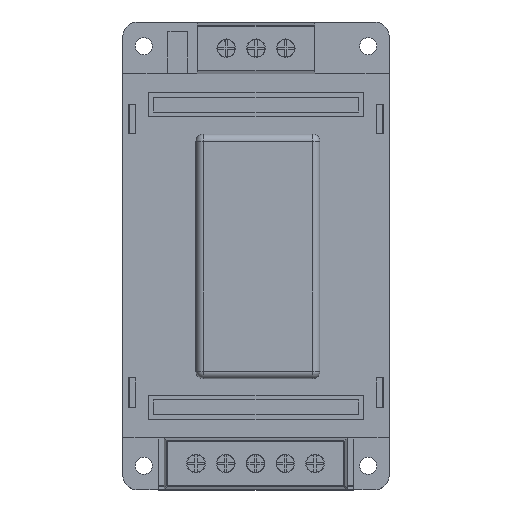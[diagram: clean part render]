
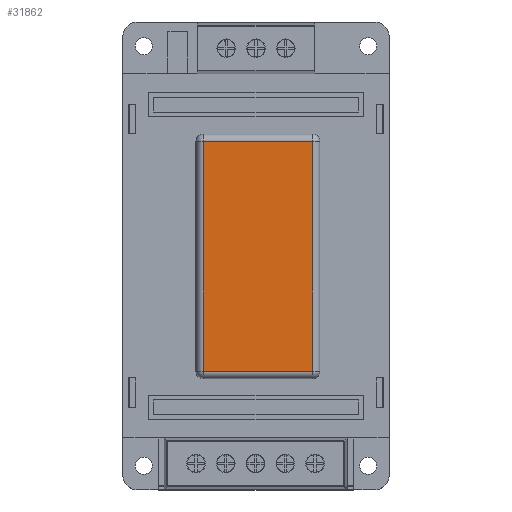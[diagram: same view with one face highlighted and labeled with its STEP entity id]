
A CAD part, top view. The second image highlights one B-rep face of the part: STEP entity #31862.
In plain terms, the highlighted planar face has unit normal (0, 0, 1).
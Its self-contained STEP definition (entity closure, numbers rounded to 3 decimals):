
#31282=DIRECTION('',(-1.,0.,0.));
#31283=VECTOR('',#31282,47.1);
#31284=CARTESIAN_POINT('',(23.55,11.2,10.8));
#31285=LINE('',#31284,#31283);
#31303=DIRECTION('',(0.,1.,0.));
#31304=VECTOR('',#31303,22.4);
#31305=CARTESIAN_POINT('',(23.55,-11.2,10.8));
#31306=LINE('',#31305,#31304);
#31369=DIRECTION('',(1.,0.,0.));
#31370=VECTOR('',#31369,47.1);
#31371=CARTESIAN_POINT('',(-23.55,-11.2,10.8));
#31372=LINE('',#31371,#31370);
#31421=DIRECTION('',(0.,-1.,0.));
#31422=VECTOR('',#31421,22.4);
#31423=CARTESIAN_POINT('',(-23.55,11.2,10.8));
#31424=LINE('',#31423,#31422);
#31702=CARTESIAN_POINT('',(23.55,11.2,10.8));
#31703=CARTESIAN_POINT('',(-23.55,11.2,10.8));
#31704=VERTEX_POINT('',#31702);
#31705=VERTEX_POINT('',#31703);
#31706=CARTESIAN_POINT('',(23.55,-11.2,10.8));
#31707=VERTEX_POINT('',#31706);
#31708=CARTESIAN_POINT('',(-23.55,-11.2,10.8));
#31709=VERTEX_POINT('',#31708);
#31848=CARTESIAN_POINT('',(0.,0.,10.8));
#31849=DIRECTION('',(0.,0.,1.));
#31850=DIRECTION('',(1.,0.,0.));
#31851=AXIS2_PLACEMENT_3D('',#31848,#31849,#31850);
#31852=PLANE('',#31851);
#31854=ORIENTED_EDGE('',*,*,#31853,.F.);
#31856=ORIENTED_EDGE('',*,*,#31855,.F.);
#31858=ORIENTED_EDGE('',*,*,#31857,.F.);
#31859=ORIENTED_EDGE('',*,*,#31838,.F.);
#31860=EDGE_LOOP('',(#31854,#31856,#31858,#31859));
#31861=FACE_OUTER_BOUND('',#31860,.F.);
#31838=EDGE_CURVE('',#31704,#31705,#31285,.T.);
#31853=EDGE_CURVE('',#31707,#31704,#31306,.T.);
#31855=EDGE_CURVE('',#31709,#31707,#31372,.T.);
#31857=EDGE_CURVE('',#31705,#31709,#31424,.T.);
#31862=ADVANCED_FACE('',(#31861),#31852,.T.);
